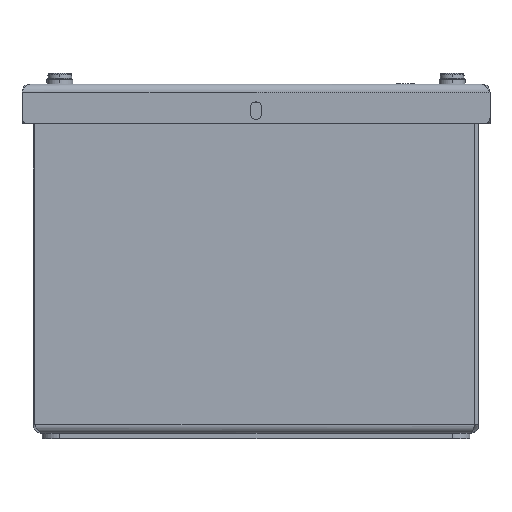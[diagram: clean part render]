
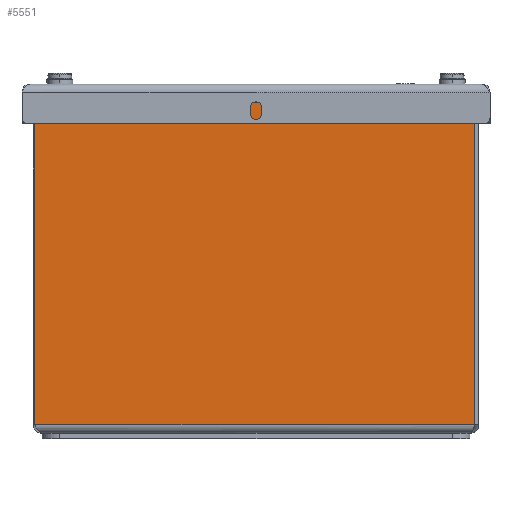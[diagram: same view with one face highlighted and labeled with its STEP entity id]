
A CAD part, left-side view. The second image highlights one B-rep face of the part: STEP entity #5551.
In plain terms, the highlighted planar face has unit normal (-1, 0, 0).
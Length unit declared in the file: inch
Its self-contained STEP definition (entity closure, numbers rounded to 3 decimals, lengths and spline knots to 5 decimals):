
#267=DIRECTION('',(0.,-1.,0.));
#268=VECTOR('',#267,6.168);
#269=CARTESIAN_POINT('',(0.,6.228,0.12));
#270=LINE('',#269,#268);
#1612=DIRECTION('',(0.,-1.,0.));
#1613=VECTOR('',#1612,5.47175);
#1614=CARTESIAN_POINT('',(0.,6.228,4.638));
#1615=LINE('',#1614,#1613);
#1701=DIRECTION('',(0.,0.,1.));
#1702=VECTOR('',#1701,4.518);
#1703=CARTESIAN_POINT('',(0.,6.228,0.12));
#1704=LINE('',#1703,#1702);
#1708=DIRECTION('',(0.,0.,1.));
#1709=VECTOR('',#1708,0.042);
#1710=CARTESIAN_POINT('',(0.,0.75625,4.638));
#1711=LINE('',#1710,#1709);
#1715=DIRECTION('',(0.,1.,0.));
#1716=VECTOR('',#1715,0.65125);
#1717=CARTESIAN_POINT('',(0.,0.105,4.68));
#1718=LINE('',#1717,#1716);
#1722=CARTESIAN_POINT('',(0.,0.105,4.635));
#1723=DIRECTION('',(-1.,0.,0.));
#1724=DIRECTION('',(0.,-1.,0.));
#1725=AXIS2_PLACEMENT_3D('',#1722,#1723,#1724);
#1772=DIRECTION('',(0.,0.,1.));
#1773=VECTOR('',#1772,4.515);
#1774=CARTESIAN_POINT('',(0.,0.06,0.12));
#1775=LINE('',#1774,#1773);
#3441=CARTESIAN_POINT('',(0.,0.75625,4.638));
#3442=CARTESIAN_POINT('',(0.,0.75625,4.68));
#3443=VERTEX_POINT('',#3441);
#3444=VERTEX_POINT('',#3442);
#3569=CARTESIAN_POINT('',(0.,6.228,0.12));
#3570=CARTESIAN_POINT('',(0.,6.228,4.638));
#3571=VERTEX_POINT('',#3569);
#3572=VERTEX_POINT('',#3570);
#3617=CARTESIAN_POINT('',(0.,0.06,4.635));
#3618=CARTESIAN_POINT('',(0.,0.105,4.68));
#3619=VERTEX_POINT('',#3617);
#3620=VERTEX_POINT('',#3618);
#3625=CARTESIAN_POINT('',(0.,0.06,0.12));
#3626=VERTEX_POINT('',#3625);
#5533=CARTESIAN_POINT('',(0.,6.25,0.));
#5534=DIRECTION('',(-1.,0.,0.));
#5535=DIRECTION('',(0.,-1.,0.));
#5536=AXIS2_PLACEMENT_3D('',#5533,#5534,#5535);
#5537=PLANE('',#5536);
#5538=ORIENTED_EDGE('',*,*,#5098,.T.);
#5539=ORIENTED_EDGE('',*,*,#5523,.T.);
#5541=ORIENTED_EDGE('',*,*,#5540,.T.);
#5543=ORIENTED_EDGE('',*,*,#5542,.F.);
#5545=ORIENTED_EDGE('',*,*,#5544,.F.);
#5547=ORIENTED_EDGE('',*,*,#5546,.F.);
#5548=ORIENTED_EDGE('',*,*,#4021,.F.);
#5549=EDGE_LOOP('',(#5538,#5539,#5541,#5543,#5545,#5547,#5548));
#5550=FACE_OUTER_BOUND('',#5549,.F.);
#1726=CIRCLE('',#1725,0.045);
#4021=EDGE_CURVE('',#3571,#3626,#270,.T.);
#5098=EDGE_CURVE('',#3571,#3572,#1704,.T.);
#5523=EDGE_CURVE('',#3572,#3443,#1615,.T.);
#5540=EDGE_CURVE('',#3443,#3444,#1711,.T.);
#5542=EDGE_CURVE('',#3620,#3444,#1718,.T.);
#5544=EDGE_CURVE('',#3619,#3620,#1726,.T.);
#5546=EDGE_CURVE('',#3626,#3619,#1775,.T.);
#5551=ADVANCED_FACE('',(#5550),#5537,.T.);
